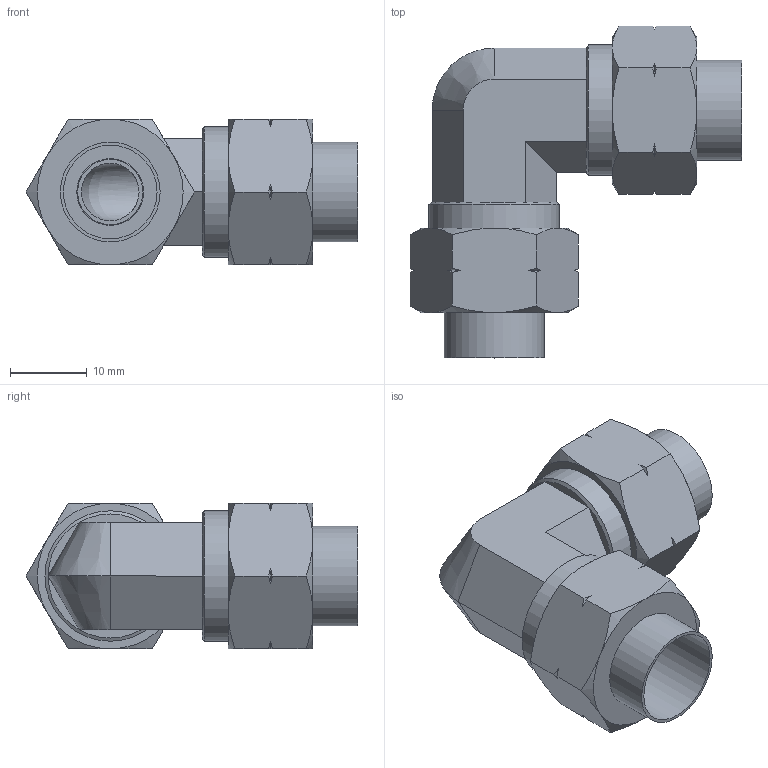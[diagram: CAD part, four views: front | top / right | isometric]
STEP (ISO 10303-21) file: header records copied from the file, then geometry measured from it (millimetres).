
FILE_DESCRIPTION((''),'2;1');
FILE_NAME('D:\INVENTOR\[New Inventor]\CDC Products 3D Ass''y\Two-Touch Fittings\Metric\CUL\CUL12-9.stp','2009-02-25T10:06:55',('Microsoft'),(''),'Autodesk Inventor 2008','Autodesk Inventor 2008','');
FILE_SCHEMA(('AUTOMOTIVE_DESIGN { 1 0 10303 214 1 1 1 1 }'));
Length unit declared in the file: millimetre
Products named in the file (1): CUL12-9
Bounding box: 43.24 x 43.24 x 19 mm (x, y, z)
Volume: 8796.6 mm3; surface area: 7296.4 mm2
Topology: 1 solids, 1 shells, 109 faces, 241 edges, 140 vertices
Faces by surface type: cone 50, plane 44, cylinder 10, bspline 3, torus 2
Full cylindrical faces by diameter (mm): 7.5 x2, 8.7 x2, 12.2 x2, 13 x2, 17 x2
Entity records: 2898 total; most frequent: CARTESIAN_POINT 809, ORIENTED_EDGE 446, DIRECTION 410, EDGE_CURVE 223, AXIS2_PLACEMENT_3D 178, VERTEX_POINT 138, EDGE_LOOP 133, FACE_OUTER_BOUND 109
